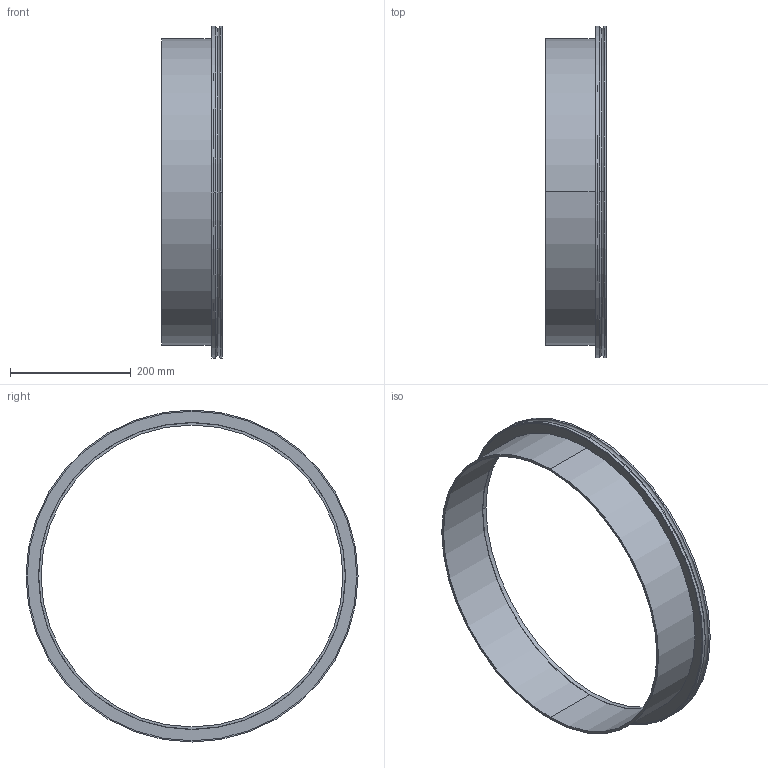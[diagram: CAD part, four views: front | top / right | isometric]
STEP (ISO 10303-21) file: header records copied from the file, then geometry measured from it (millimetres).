
FILE_DESCRIPTION((''),'2;1');
FILE_NAME('W:\212-058.stp','2004-01-07T14:51:43',('KAA'),(''),'Autodesk Inventor (R) 6.0','Autodesk Inventor (R) 6.0','');
FILE_SCHEMA(('CONFIG_CONTROL_DESIGN'));
Length unit declared in the file: millimetre
Products named in the file (1): 212-058
Bounding box: 100 x 550 x 550 mm (x, y, z)
Volume: 1106928.6 mm3; surface area: 441408.1 mm2
Topology: 1 solids, 1 shells, 32 faces, 71 edges, 45 vertices
Faces by surface type: cylinder 14, plane 6, bspline 4, torus 4, cone 4
Entity records: 1171 total; most frequent: CARTESIAN_POINT 325, DIRECTION 182, ORIENTED_EDGE 142, AXIS2_PLACEMENT_3D 82, EDGE_CURVE 71, CIRCLE 53, VERTEX_POINT 45, EDGE_LOOP 38
